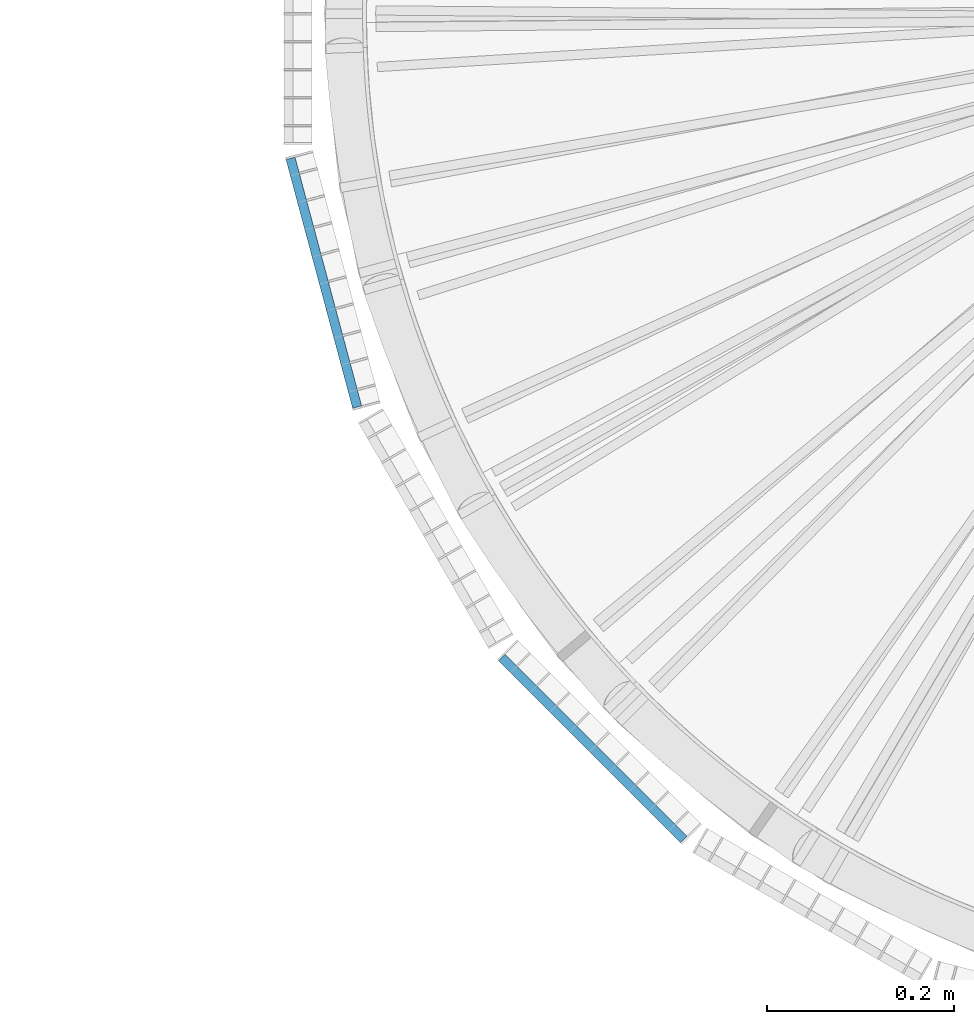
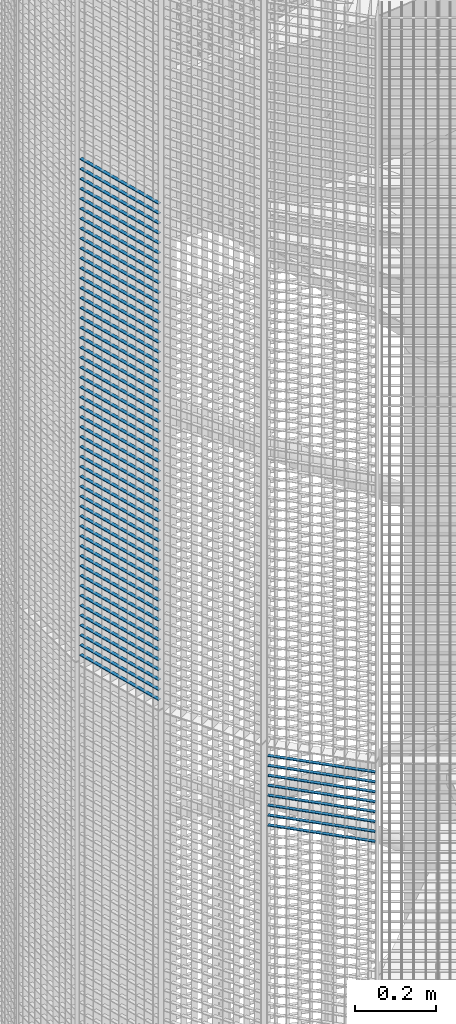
# One storey, part 122 of 1148: 59 beams, 2 elements without a shape of their own.
"""IFC2X3 building model written with IfcOpenShell, lengths in millimetres."""

from ifc_helpers import new_model, si_unit, frame, origin_with_axes, origin_2d_with_axis, place, context, subcontext, project, spatial, rectangle, extrude, material, type_object, element, aggregate, save


model = new_model("IFC2X3")

# Units and contexts
model_context = context("Model", 3, precision=1e-05, world=origin_with_axes())
body_context = subcontext(model_context, "Body", "Model", "MODEL_VIEW")
ifc_project = project(units=[si_unit("LENGTHUNIT", "METRE", prefix="MILLI"), si_unit("AREAUNIT", "SQUARE_METRE"), si_unit("VOLUMEUNIT", "CUBIC_METRE"), si_unit("MASSUNIT", "GRAM", prefix="KILO"), si_unit("TIMEUNIT", "SECOND"), si_unit("PLANEANGLEUNIT", "RADIAN"), si_unit("SOLIDANGLEUNIT", "STERADIAN"), si_unit("THERMODYNAMICTEMPERATUREUNIT", "DEGREE_CELSIUS"), si_unit("LUMINOUSINTENSITYUNIT", "LUMEN")], contexts=[model_context])

# Site, building, storey
site_placement = place(None, origin_with_axes())
site = spatial("IfcSite", under=ifc_project, at=site_placement, Name="Undefined", CompositionType="ELEMENT")
building_placement = place(site_placement, origin_with_axes())
building = spatial("IfcBuilding", under=site, at=building_placement, Name="Undefined", CompositionType="ELEMENT")
storey_placement = place(building_placement, origin_with_axes())
storey = spatial("IfcBuildingStorey", under=building, at=storey_placement, Name="Undefined", CompositionType="ELEMENT", Elevation=0.0)

# Assembly, beams
assembly_1_placement = place(storey_placement, origin_with_axes())
assembly_1 = element("IfcElementAssembly", 1, at=assembly_1_placement, inside=storey, Name="BORDURE", AssemblyPlace="NOTDEFINED", PredefinedType="NOTDEFINED")
ifc_material = material(Name="STEEL/S235JR")
beam_type = type_object("IfcBeamType", Name="PL2*10", PredefinedType="NOTDEFINED")
beam_1_placement = place(assembly_1_placement, frame((-1111.25508286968, -154.895926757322, 7530.0), z_axis=(-0.965925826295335, -0.258819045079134, 0.0), x_axis=(0.258819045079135, -0.965925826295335, 0.0)))
beam_1 = element("IfcBeam", 2, at=beam_1_placement, type_object=beam_type, material=ifc_material, Name="ENTRETOISE", context=body_context, shape_type="SweptSolid", body=[
    extrude(rectangle(XDim=2.0, YDim=10.0, at=origin_2d_with_axis()), frame((275.999999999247, 9.09494701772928e-13, 1.53210777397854e-14), z_axis=(-1.0, 0.0, 0.0), x_axis=(0.0, -1.0, 0.0)), (0.0, 0.0, 1.0), 276.0),
])
beam_2_placement = place(assembly_1_placement, frame((-1111.25508286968, -154.895926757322, 7500.0), z_axis=(-0.965925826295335, -0.258819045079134, 0.0), x_axis=(0.258819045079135, -0.965925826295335, 0.0)))
beam_2 = element("IfcBeam", 3, at=beam_2_placement, type_object=beam_type, material=ifc_material, Name="ENTRETOISE", context=body_context, shape_type="SweptSolid", body=[
    extrude(rectangle(XDim=2.0, YDim=10.0, at=origin_2d_with_axis()), frame((275.999999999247, 9.09494701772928e-13, 1.53210777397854e-14), z_axis=(-1.0, 0.0, 0.0), x_axis=(0.0, -1.0, 0.0)), (0.0, 0.0, 1.0), 276.0),
])
beam_3_placement = place(assembly_1_placement, frame((-1111.25508286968, -154.895926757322, 7470.0), z_axis=(-0.965925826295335, -0.258819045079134, 0.0), x_axis=(0.258819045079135, -0.965925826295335, 0.0)))
beam_3 = element("IfcBeam", 4, at=beam_3_placement, type_object=beam_type, material=ifc_material, Name="ENTRETOISE", context=body_context, shape_type="SweptSolid", body=[
    extrude(rectangle(XDim=2.0, YDim=10.0, at=origin_2d_with_axis()), frame((275.999999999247, 9.09494701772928e-13, 1.53210777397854e-14), z_axis=(-1.0, 0.0, 0.0), x_axis=(0.0, -1.0, 0.0)), (0.0, 0.0, 1.0), 276.0),
])
beam_4_placement = place(assembly_1_placement, frame((-1111.25508286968, -154.895926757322, 7440.0), z_axis=(-0.965925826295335, -0.258819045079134, 0.0), x_axis=(0.258819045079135, -0.965925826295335, 0.0)))
beam_4 = element("IfcBeam", 5, at=beam_4_placement, type_object=beam_type, material=ifc_material, Name="ENTRETOISE", context=body_context, shape_type="SweptSolid", body=[
    extrude(rectangle(XDim=2.0, YDim=10.0, at=origin_2d_with_axis()), frame((275.999999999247, 9.09494701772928e-13, 1.53210777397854e-14), z_axis=(-1.0, 0.0, 0.0), x_axis=(0.0, -1.0, 0.0)), (0.0, 0.0, 1.0), 276.0),
])
beam_5_placement = place(assembly_1_placement, frame((-1111.25508286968, -154.895926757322, 7410.0), z_axis=(-0.965925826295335, -0.258819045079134, 0.0), x_axis=(0.258819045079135, -0.965925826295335, 0.0)))
beam_5 = element("IfcBeam", 6, at=beam_5_placement, type_object=beam_type, material=ifc_material, Name="ENTRETOISE", context=body_context, shape_type="SweptSolid", body=[
    extrude(rectangle(XDim=2.0, YDim=10.0, at=origin_2d_with_axis()), frame((275.999999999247, 9.09494701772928e-13, 1.53210777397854e-14), z_axis=(-1.0, 0.0, 0.0), x_axis=(0.0, -1.0, 0.0)), (0.0, 0.0, 1.0), 276.0),
])
beam_6_placement = place(assembly_1_placement, frame((-1111.25508286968, -154.895926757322, 7380.0), z_axis=(-0.965925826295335, -0.258819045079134, 0.0), x_axis=(0.258819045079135, -0.965925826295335, 0.0)))
beam_6 = element("IfcBeam", 7, at=beam_6_placement, type_object=beam_type, material=ifc_material, Name="ENTRETOISE", context=body_context, shape_type="SweptSolid", body=[
    extrude(rectangle(XDim=2.0, YDim=10.0, at=origin_2d_with_axis()), frame((275.999999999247, 9.09494701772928e-13, 1.53210777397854e-14), z_axis=(-1.0, 0.0, 0.0), x_axis=(0.0, -1.0, 0.0)), (0.0, 0.0, 1.0), 276.0),
])
beam_7_placement = place(assembly_1_placement, frame((-1111.25508286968, -154.895926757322, 7350.0), z_axis=(-0.965925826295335, -0.258819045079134, 0.0), x_axis=(0.258819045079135, -0.965925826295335, 0.0)))
beam_7 = element("IfcBeam", 8, at=beam_7_placement, type_object=beam_type, material=ifc_material, Name="ENTRETOISE", context=body_context, shape_type="SweptSolid", body=[
    extrude(rectangle(XDim=2.0, YDim=10.0, at=origin_2d_with_axis()), frame((275.999999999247, 9.09494701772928e-13, 1.53210777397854e-14), z_axis=(-1.0, 0.0, 0.0), x_axis=(0.0, -1.0, 0.0)), (0.0, 0.0, 1.0), 276.0),
])
beam_8_placement = place(assembly_1_placement, frame((-1111.25508286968, -154.895926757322, 7320.0), z_axis=(-0.965925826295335, -0.258819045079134, 0.0), x_axis=(0.258819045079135, -0.965925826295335, 0.0)))
beam_8 = element("IfcBeam", 9, at=beam_8_placement, type_object=beam_type, material=ifc_material, Name="ENTRETOISE", context=body_context, shape_type="SweptSolid", body=[
    extrude(rectangle(XDim=2.0, YDim=10.0, at=origin_2d_with_axis()), frame((275.999999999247, 9.09494701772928e-13, 1.53210777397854e-14), z_axis=(-1.0, 0.0, 0.0), x_axis=(0.0, -1.0, 0.0)), (0.0, 0.0, 1.0), 276.0),
])
beam_9_placement = place(assembly_1_placement, frame((-1111.25508286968, -154.895926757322, 7290.0), z_axis=(-0.965925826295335, -0.258819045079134, 0.0), x_axis=(0.258819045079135, -0.965925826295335, 0.0)))
beam_9 = element("IfcBeam", 10, at=beam_9_placement, type_object=beam_type, material=ifc_material, Name="ENTRETOISE", context=body_context, shape_type="SweptSolid", body=[
    extrude(rectangle(XDim=2.0, YDim=10.0, at=origin_2d_with_axis()), frame((275.999999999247, 9.09494701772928e-13, 1.53210777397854e-14), z_axis=(-1.0, 0.0, 0.0), x_axis=(0.0, -1.0, 0.0)), (0.0, 0.0, 1.0), 276.0),
])
beam_10_placement = place(assembly_1_placement, frame((-1111.25508286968, -154.895926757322, 7260.0), z_axis=(-0.965925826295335, -0.258819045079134, 0.0), x_axis=(0.258819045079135, -0.965925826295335, 0.0)))
beam_10 = element("IfcBeam", 11, at=beam_10_placement, type_object=beam_type, material=ifc_material, Name="ENTRETOISE", context=body_context, shape_type="SweptSolid", body=[
    extrude(rectangle(XDim=2.0, YDim=10.0, at=origin_2d_with_axis()), frame((275.999999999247, 9.09494701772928e-13, 1.53210777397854e-14), z_axis=(-1.0, 0.0, 0.0), x_axis=(0.0, -1.0, 0.0)), (0.0, 0.0, 1.0), 276.0),
])
beam_11_placement = place(assembly_1_placement, frame((-1111.25508286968, -154.895926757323, 7230.0), z_axis=(-0.965925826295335, -0.258819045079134, 0.0), x_axis=(0.258819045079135, -0.965925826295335, 0.0)))
beam_11 = element("IfcBeam", 12, at=beam_11_placement, type_object=beam_type, material=ifc_material, Name="ENTRETOISE", context=body_context, shape_type="SweptSolid", body=[
    extrude(rectangle(XDim=2.0, YDim=10.0, at=origin_2d_with_axis()), frame((275.999999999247, 9.09494701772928e-13, 1.53210777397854e-14), z_axis=(-1.0, 0.0, 0.0), x_axis=(0.0, -1.0, 0.0)), (0.0, 0.0, 1.0), 276.0),
])
beam_12_placement = place(assembly_1_placement, frame((-1111.25508286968, -154.895926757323, 7200.0), z_axis=(-0.965925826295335, -0.258819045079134, 0.0), x_axis=(0.258819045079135, -0.965925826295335, 0.0)))
beam_12 = element("IfcBeam", 13, at=beam_12_placement, type_object=beam_type, material=ifc_material, Name="ENTRETOISE", context=body_context, shape_type="SweptSolid", body=[
    extrude(rectangle(XDim=2.0, YDim=10.0, at=origin_2d_with_axis()), frame((275.999999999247, 9.09494701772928e-13, 1.53210777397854e-14), z_axis=(-1.0, 0.0, 0.0), x_axis=(0.0, -1.0, 0.0)), (0.0, 0.0, 1.0), 276.0),
])
beam_13_placement = place(assembly_1_placement, frame((-1111.25508286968, -154.895926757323, 7170.0), z_axis=(-0.965925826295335, -0.258819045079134, 0.0), x_axis=(0.258819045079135, -0.965925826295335, 0.0)))
beam_13 = element("IfcBeam", 14, at=beam_13_placement, type_object=beam_type, material=ifc_material, Name="ENTRETOISE", context=body_context, shape_type="SweptSolid", body=[
    extrude(rectangle(XDim=2.0, YDim=10.0, at=origin_2d_with_axis()), frame((275.999999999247, 9.09494701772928e-13, 1.53210777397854e-14), z_axis=(-1.0, 0.0, 0.0), x_axis=(0.0, -1.0, 0.0)), (0.0, 0.0, 1.0), 276.0),
])
beam_14_placement = place(assembly_1_placement, frame((-1111.25508286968, -154.895926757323, 7140.0), z_axis=(-0.965925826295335, -0.258819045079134, 0.0), x_axis=(0.258819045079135, -0.965925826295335, 0.0)))
beam_14 = element("IfcBeam", 15, at=beam_14_placement, type_object=beam_type, material=ifc_material, Name="ENTRETOISE", context=body_context, shape_type="SweptSolid", body=[
    extrude(rectangle(XDim=2.0, YDim=10.0, at=origin_2d_with_axis()), frame((275.999999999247, 9.09494701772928e-13, 1.53210777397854e-14), z_axis=(-1.0, 0.0, 0.0), x_axis=(0.0, -1.0, 0.0)), (0.0, 0.0, 1.0), 276.0),
])
beam_15_placement = place(assembly_1_placement, frame((-1111.25508286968, -154.895926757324, 6720.0), z_axis=(-0.965925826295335, -0.258819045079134, 0.0), x_axis=(0.258819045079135, -0.965925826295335, 0.0)))
beam_15 = element("IfcBeam", 16, at=beam_15_placement, type_object=beam_type, material=ifc_material, Name="ENTRETOISE", context=body_context, shape_type="SweptSolid", body=[
    extrude(rectangle(XDim=2.0, YDim=10.0, at=origin_2d_with_axis()), frame((275.999999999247, 9.09494701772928e-13, 1.53210777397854e-14), z_axis=(-1.0, 0.0, 0.0), x_axis=(0.0, -1.0, 0.0)), (0.0, 0.0, 1.0), 276.0),
])
beam_16_placement = place(assembly_1_placement, frame((-1111.25508286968, -154.895926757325, 6690.0), z_axis=(-0.965925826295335, -0.258819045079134, 0.0), x_axis=(0.258819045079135, -0.965925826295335, 0.0)))
beam_16 = element("IfcBeam", 17, at=beam_16_placement, type_object=beam_type, material=ifc_material, Name="ENTRETOISE", context=body_context, shape_type="SweptSolid", body=[
    extrude(rectangle(XDim=2.0, YDim=10.0, at=origin_2d_with_axis()), frame((275.999999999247, 9.09494701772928e-13, 1.53210777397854e-14), z_axis=(-1.0, 0.0, 0.0), x_axis=(0.0, -1.0, 0.0)), (0.0, 0.0, 1.0), 276.0),
])
beam_17_placement = place(assembly_1_placement, frame((-1111.25508286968, -154.895926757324, 6750.0), z_axis=(-0.965925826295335, -0.258819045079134, 0.0), x_axis=(0.258819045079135, -0.965925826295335, 0.0)))
beam_17 = element("IfcBeam", 18, at=beam_17_placement, type_object=beam_type, material=ifc_material, Name="ENTRETOISE", context=body_context, shape_type="SweptSolid", body=[
    extrude(rectangle(XDim=2.0, YDim=10.0, at=origin_2d_with_axis()), frame((275.999999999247, 9.09494701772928e-13, 1.53210777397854e-14), z_axis=(-1.0, 0.0, 0.0), x_axis=(0.0, -1.0, 0.0)), (0.0, 0.0, 1.0), 276.0),
])
beam_18_placement = place(assembly_1_placement, frame((-1111.25508286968, -154.895926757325, 6660.0), z_axis=(-0.965925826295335, -0.258819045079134, 0.0), x_axis=(0.258819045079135, -0.965925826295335, 0.0)))
beam_18 = element("IfcBeam", 19, at=beam_18_placement, type_object=beam_type, material=ifc_material, Name="ENTRETOISE", context=body_context, shape_type="SweptSolid", body=[
    extrude(rectangle(XDim=2.0, YDim=10.0, at=origin_2d_with_axis()), frame((275.999999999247, 9.09494701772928e-13, 1.53210777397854e-14), z_axis=(-1.0, 0.0, 0.0), x_axis=(0.0, -1.0, 0.0)), (0.0, 0.0, 1.0), 276.0),
])
beam_19_placement = place(assembly_1_placement, frame((-1111.25508286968, -154.895926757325, 6630.0), z_axis=(-0.965925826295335, -0.258819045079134, 0.0), x_axis=(0.258819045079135, -0.965925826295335, 0.0)))
beam_19 = element("IfcBeam", 20, at=beam_19_placement, type_object=beam_type, material=ifc_material, Name="ENTRETOISE", context=body_context, shape_type="SweptSolid", body=[
    extrude(rectangle(XDim=2.0, YDim=10.0, at=origin_2d_with_axis()), frame((275.999999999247, 9.09494701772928e-13, 1.53210777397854e-14), z_axis=(-1.0, 0.0, 0.0), x_axis=(0.0, -1.0, 0.0)), (0.0, 0.0, 1.0), 276.0),
])
beam_20_placement = place(assembly_1_placement, frame((-1111.25508286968, -154.895926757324, 6780.0), z_axis=(-0.965925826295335, -0.258819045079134, 0.0), x_axis=(0.258819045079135, -0.965925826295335, 0.0)))
beam_20 = element("IfcBeam", 21, at=beam_20_placement, type_object=beam_type, material=ifc_material, Name="ENTRETOISE", context=body_context, shape_type="SweptSolid", body=[
    extrude(rectangle(XDim=2.0, YDim=10.0, at=origin_2d_with_axis()), frame((275.999999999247, 9.09494701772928e-13, 1.53210777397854e-14), z_axis=(-1.0, 0.0, 0.0), x_axis=(0.0, -1.0, 0.0)), (0.0, 0.0, 1.0), 276.0),
])
beam_21_placement = place(assembly_1_placement, frame((-1111.25508286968, -154.895926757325, 6600.0), z_axis=(-0.965925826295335, -0.258819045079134, 0.0), x_axis=(0.258819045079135, -0.965925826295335, 0.0)))
beam_21 = element("IfcBeam", 22, at=beam_21_placement, type_object=beam_type, material=ifc_material, Name="ENTRETOISE", context=body_context, shape_type="SweptSolid", body=[
    extrude(rectangle(XDim=2.0, YDim=10.0, at=origin_2d_with_axis()), frame((275.999999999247, 9.09494701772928e-13, 1.53210777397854e-14), z_axis=(-1.0, 0.0, 0.0), x_axis=(0.0, -1.0, 0.0)), (0.0, 0.0, 1.0), 276.0),
])
beam_22_placement = place(assembly_1_placement, frame((-1111.25508286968, -154.895926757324, 6810.0), z_axis=(-0.965925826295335, -0.258819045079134, 0.0), x_axis=(0.258819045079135, -0.965925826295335, 0.0)))
beam_22 = element("IfcBeam", 23, at=beam_22_placement, type_object=beam_type, material=ifc_material, Name="ENTRETOISE", context=body_context, shape_type="SweptSolid", body=[
    extrude(rectangle(XDim=2.0, YDim=10.0, at=origin_2d_with_axis()), frame((275.999999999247, 9.09494701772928e-13, 1.53210777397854e-14), z_axis=(-1.0, 0.0, 0.0), x_axis=(0.0, -1.0, 0.0)), (0.0, 0.0, 1.0), 276.0),
])
beam_23_placement = place(assembly_1_placement, frame((-1111.25508286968, -154.895926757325, 6570.0), z_axis=(-0.965925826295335, -0.258819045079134, 0.0), x_axis=(0.258819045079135, -0.965925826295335, 0.0)))
beam_23 = element("IfcBeam", 24, at=beam_23_placement, type_object=beam_type, material=ifc_material, Name="ENTRETOISE", context=body_context, shape_type="SweptSolid", body=[
    extrude(rectangle(XDim=2.0, YDim=10.0, at=origin_2d_with_axis()), frame((275.999999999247, 9.09494701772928e-13, 1.53210777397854e-14), z_axis=(-1.0, 0.0, 0.0), x_axis=(0.0, -1.0, 0.0)), (0.0, 0.0, 1.0), 276.0),
])
beam_24_placement = place(assembly_1_placement, frame((-1111.25508286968, -154.895926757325, 6540.0), z_axis=(-0.965925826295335, -0.258819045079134, 0.0), x_axis=(0.258819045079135, -0.965925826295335, 0.0)))
beam_24 = element("IfcBeam", 25, at=beam_24_placement, type_object=beam_type, material=ifc_material, Name="ENTRETOISE", context=body_context, shape_type="SweptSolid", body=[
    extrude(rectangle(XDim=2.0, YDim=10.0, at=origin_2d_with_axis()), frame((275.999999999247, 9.09494701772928e-13, 1.53210777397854e-14), z_axis=(-1.0, 0.0, 0.0), x_axis=(0.0, -1.0, 0.0)), (0.0, 0.0, 1.0), 276.0),
])
beam_25_placement = place(assembly_1_placement, frame((-1111.25508286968, -154.895926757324, 6840.0), z_axis=(-0.965925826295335, -0.258819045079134, 0.0), x_axis=(0.258819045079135, -0.965925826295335, 0.0)))
beam_25 = element("IfcBeam", 26, at=beam_25_placement, type_object=beam_type, material=ifc_material, Name="ENTRETOISE", context=body_context, shape_type="SweptSolid", body=[
    extrude(rectangle(XDim=2.0, YDim=10.0, at=origin_2d_with_axis()), frame((275.999999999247, 9.09494701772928e-13, 1.53210777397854e-14), z_axis=(-1.0, 0.0, 0.0), x_axis=(0.0, -1.0, 0.0)), (0.0, 0.0, 1.0), 276.0),
])
beam_26_placement = place(assembly_1_placement, frame((-1111.25508286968, -154.895926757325, 6510.0), z_axis=(-0.965925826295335, -0.258819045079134, 0.0), x_axis=(0.258819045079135, -0.965925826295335, 0.0)))
beam_26 = element("IfcBeam", 27, at=beam_26_placement, type_object=beam_type, material=ifc_material, Name="ENTRETOISE", context=body_context, shape_type="SweptSolid", body=[
    extrude(rectangle(XDim=2.0, YDim=10.0, at=origin_2d_with_axis()), frame((275.999999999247, 9.09494701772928e-13, 1.53210777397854e-14), z_axis=(-1.0, 0.0, 0.0), x_axis=(0.0, -1.0, 0.0)), (0.0, 0.0, 1.0), 276.0),
])
beam_27_placement = place(assembly_1_placement, frame((-1111.25508286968, -154.895926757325, 6480.0), z_axis=(-0.965925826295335, -0.258819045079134, 0.0), x_axis=(0.258819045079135, -0.965925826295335, 0.0)))
beam_27 = element("IfcBeam", 28, at=beam_27_placement, type_object=beam_type, material=ifc_material, Name="ENTRETOISE", context=body_context, shape_type="SweptSolid", body=[
    extrude(rectangle(XDim=2.0, YDim=10.0, at=origin_2d_with_axis()), frame((275.999999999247, 9.09494701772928e-13, 1.53210777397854e-14), z_axis=(-1.0, 0.0, 0.0), x_axis=(0.0, -1.0, 0.0)), (0.0, 0.0, 1.0), 276.0),
])
beam_28_placement = place(assembly_1_placement, frame((-1111.25508286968, -154.895926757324, 6870.0), z_axis=(-0.965925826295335, -0.258819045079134, 0.0), x_axis=(0.258819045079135, -0.965925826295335, 0.0)))
beam_28 = element("IfcBeam", 29, at=beam_28_placement, type_object=beam_type, material=ifc_material, Name="ENTRETOISE", context=body_context, shape_type="SweptSolid", body=[
    extrude(rectangle(XDim=2.0, YDim=10.0, at=origin_2d_with_axis()), frame((275.999999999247, 9.09494701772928e-13, 1.53210777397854e-14), z_axis=(-1.0, 0.0, 0.0), x_axis=(0.0, -1.0, 0.0)), (0.0, 0.0, 1.0), 276.0),
])
beam_29_placement = place(assembly_1_placement, frame((-1111.25508286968, -154.895926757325, 6450.0), z_axis=(-0.965925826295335, -0.258819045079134, 0.0), x_axis=(0.258819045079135, -0.965925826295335, 0.0)))
beam_29 = element("IfcBeam", 30, at=beam_29_placement, type_object=beam_type, material=ifc_material, Name="ENTRETOISE", context=body_context, shape_type="SweptSolid", body=[
    extrude(rectangle(XDim=2.0, YDim=10.0, at=origin_2d_with_axis()), frame((275.999999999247, 9.09494701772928e-13, 1.53210777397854e-14), z_axis=(-1.0, 0.0, 0.0), x_axis=(0.0, -1.0, 0.0)), (0.0, 0.0, 1.0), 276.0),
])
beam_30_placement = place(assembly_1_placement, frame((-1111.25508286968, -154.895926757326, 6420.0), z_axis=(-0.965925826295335, -0.258819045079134, 0.0), x_axis=(0.258819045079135, -0.965925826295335, 0.0)))
beam_30 = element("IfcBeam", 31, at=beam_30_placement, type_object=beam_type, material=ifc_material, Name="ENTRETOISE", context=body_context, shape_type="SweptSolid", body=[
    extrude(rectangle(XDim=2.0, YDim=10.0, at=origin_2d_with_axis()), frame((275.999999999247, 9.09494701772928e-13, 1.53210777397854e-14), z_axis=(-1.0, 0.0, 0.0), x_axis=(0.0, -1.0, 0.0)), (0.0, 0.0, 1.0), 276.0),
])
beam_31_placement = place(assembly_1_placement, frame((-1111.25508286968, -154.895926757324, 6900.0), z_axis=(-0.965925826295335, -0.258819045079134, 0.0), x_axis=(0.258819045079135, -0.965925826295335, 0.0)))
beam_31 = element("IfcBeam", 32, at=beam_31_placement, type_object=beam_type, material=ifc_material, Name="ENTRETOISE", context=body_context, shape_type="SweptSolid", body=[
    extrude(rectangle(XDim=2.0, YDim=10.0, at=origin_2d_with_axis()), frame((275.999999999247, 9.09494701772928e-13, 1.53210777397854e-14), z_axis=(-1.0, 0.0, 0.0), x_axis=(0.0, -1.0, 0.0)), (0.0, 0.0, 1.0), 276.0),
])
beam_32_placement = place(assembly_1_placement, frame((-1111.25508286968, -154.895926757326, 6390.0), z_axis=(-0.965925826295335, -0.258819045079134, 0.0), x_axis=(0.258819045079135, -0.965925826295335, 0.0)))
beam_32 = element("IfcBeam", 33, at=beam_32_placement, type_object=beam_type, material=ifc_material, Name="ENTRETOISE", context=body_context, shape_type="SweptSolid", body=[
    extrude(rectangle(XDim=2.0, YDim=10.0, at=origin_2d_with_axis()), frame((275.999999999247, 9.09494701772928e-13, 1.53210777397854e-14), z_axis=(-1.0, 0.0, 0.0), x_axis=(0.0, -1.0, 0.0)), (0.0, 0.0, 1.0), 276.0),
])
beam_33_placement = place(assembly_1_placement, frame((-1111.25508286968, -154.895926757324, 6930.0), z_axis=(-0.965925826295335, -0.258819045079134, 0.0), x_axis=(0.258819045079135, -0.965925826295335, 0.0)))
beam_33 = element("IfcBeam", 34, at=beam_33_placement, type_object=beam_type, material=ifc_material, Name="ENTRETOISE", context=body_context, shape_type="SweptSolid", body=[
    extrude(rectangle(XDim=2.0, YDim=10.0, at=origin_2d_with_axis()), frame((275.999999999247, 9.09494701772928e-13, 1.53210777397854e-14), z_axis=(-1.0, 0.0, 0.0), x_axis=(0.0, -1.0, 0.0)), (0.0, 0.0, 1.0), 276.0),
])
beam_34_placement = place(assembly_1_placement, frame((-1111.25508286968, -154.895926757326, 6360.0), z_axis=(-0.965925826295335, -0.258819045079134, 0.0), x_axis=(0.258819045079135, -0.965925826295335, 0.0)))
beam_34 = element("IfcBeam", 35, at=beam_34_placement, type_object=beam_type, material=ifc_material, Name="ENTRETOISE", context=body_context, shape_type="SweptSolid", body=[
    extrude(rectangle(XDim=2.0, YDim=10.0, at=origin_2d_with_axis()), frame((275.999999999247, 9.09494701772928e-13, 1.53210777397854e-14), z_axis=(-1.0, 0.0, 0.0), x_axis=(0.0, -1.0, 0.0)), (0.0, 0.0, 1.0), 276.0),
])
beam_35_placement = place(assembly_1_placement, frame((-1111.25508286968, -154.895926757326, 6330.0), z_axis=(-0.965925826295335, -0.258819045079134, 0.0), x_axis=(0.258819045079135, -0.965925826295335, 0.0)))
beam_35 = element("IfcBeam", 36, at=beam_35_placement, type_object=beam_type, material=ifc_material, Name="ENTRETOISE", context=body_context, shape_type="SweptSolid", body=[
    extrude(rectangle(XDim=2.0, YDim=10.0, at=origin_2d_with_axis()), frame((275.999999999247, 9.09494701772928e-13, 1.53210777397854e-14), z_axis=(-1.0, 0.0, 0.0), x_axis=(0.0, -1.0, 0.0)), (0.0, 0.0, 1.0), 276.0),
])
beam_36_placement = place(assembly_1_placement, frame((-1111.25508286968, -154.895926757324, 6960.0), z_axis=(-0.965925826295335, -0.258819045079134, 0.0), x_axis=(0.258819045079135, -0.965925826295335, 0.0)))
beam_36 = element("IfcBeam", 37, at=beam_36_placement, type_object=beam_type, material=ifc_material, Name="ENTRETOISE", context=body_context, shape_type="SweptSolid", body=[
    extrude(rectangle(XDim=2.0, YDim=10.0, at=origin_2d_with_axis()), frame((275.999999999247, 9.09494701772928e-13, 1.53210777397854e-14), z_axis=(-1.0, 0.0, 0.0), x_axis=(0.0, -1.0, 0.0)), (0.0, 0.0, 1.0), 276.0),
])
beam_37_placement = place(assembly_1_placement, frame((-1111.25508286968, -154.895926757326, 6300.0), z_axis=(-0.965925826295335, -0.258819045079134, 0.0), x_axis=(0.258819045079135, -0.965925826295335, 0.0)))
beam_37 = element("IfcBeam", 38, at=beam_37_placement, type_object=beam_type, material=ifc_material, Name="ENTRETOISE", context=body_context, shape_type="SweptSolid", body=[
    extrude(rectangle(XDim=2.0, YDim=10.0, at=origin_2d_with_axis()), frame((275.999999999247, 9.09494701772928e-13, 1.53210777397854e-14), z_axis=(-1.0, 0.0, 0.0), x_axis=(0.0, -1.0, 0.0)), (0.0, 0.0, 1.0), 276.0),
])
beam_38_placement = place(assembly_1_placement, frame((-1111.25508286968, -154.895926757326, 6270.0), z_axis=(-0.965925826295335, -0.258819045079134, 0.0), x_axis=(0.258819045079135, -0.965925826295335, 0.0)))
beam_38 = element("IfcBeam", 39, at=beam_38_placement, type_object=beam_type, material=ifc_material, Name="ENTRETOISE", context=body_context, shape_type="SweptSolid", body=[
    extrude(rectangle(XDim=2.0, YDim=10.0, at=origin_2d_with_axis()), frame((275.999999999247, 9.09494701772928e-13, 1.53210777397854e-14), z_axis=(-1.0, 0.0, 0.0), x_axis=(0.0, -1.0, 0.0)), (0.0, 0.0, 1.0), 276.0),
])
beam_39_placement = place(assembly_1_placement, frame((-1111.25508286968, -154.895926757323, 6990.0), z_axis=(-0.965925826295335, -0.258819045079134, 0.0), x_axis=(0.258819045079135, -0.965925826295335, 0.0)))
beam_39 = element("IfcBeam", 40, at=beam_39_placement, type_object=beam_type, material=ifc_material, Name="ENTRETOISE", context=body_context, shape_type="SweptSolid", body=[
    extrude(rectangle(XDim=2.0, YDim=10.0, at=origin_2d_with_axis()), frame((275.999999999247, 9.09494701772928e-13, 1.53210777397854e-14), z_axis=(-1.0, 0.0, 0.0), x_axis=(0.0, -1.0, 0.0)), (0.0, 0.0, 1.0), 276.0),
])
beam_40_placement = place(assembly_1_placement, frame((-1111.25508286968, -154.895926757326, 6240.0), z_axis=(-0.965925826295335, -0.258819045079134, 0.0), x_axis=(0.258819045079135, -0.965925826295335, 0.0)))
beam_40 = element("IfcBeam", 41, at=beam_40_placement, type_object=beam_type, material=ifc_material, Name="ENTRETOISE", context=body_context, shape_type="SweptSolid", body=[
    extrude(rectangle(XDim=2.0, YDim=10.0, at=origin_2d_with_axis()), frame((275.999999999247, 9.09494701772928e-13, 1.53210777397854e-14), z_axis=(-1.0, 0.0, 0.0), x_axis=(0.0, -1.0, 0.0)), (0.0, 0.0, 1.0), 276.0),
])
beam_41_placement = place(assembly_1_placement, frame((-1111.25508286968, -154.895926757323, 7020.0), z_axis=(-0.965925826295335, -0.258819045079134, 0.0), x_axis=(0.258819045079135, -0.965925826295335, 0.0)))
beam_41 = element("IfcBeam", 42, at=beam_41_placement, type_object=beam_type, material=ifc_material, Name="ENTRETOISE", context=body_context, shape_type="SweptSolid", body=[
    extrude(rectangle(XDim=2.0, YDim=10.0, at=origin_2d_with_axis()), frame((275.999999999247, 9.09494701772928e-13, 1.53210777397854e-14), z_axis=(-1.0, 0.0, 0.0), x_axis=(0.0, -1.0, 0.0)), (0.0, 0.0, 1.0), 276.0),
])
beam_42_placement = place(assembly_1_placement, frame((-1111.25508286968, -154.895926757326, 6210.0), z_axis=(-0.965925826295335, -0.258819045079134, 0.0), x_axis=(0.258819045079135, -0.965925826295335, 0.0)))
beam_42 = element("IfcBeam", 43, at=beam_42_placement, type_object=beam_type, material=ifc_material, Name="ENTRETOISE", context=body_context, shape_type="SweptSolid", body=[
    extrude(rectangle(XDim=2.0, YDim=10.0, at=origin_2d_with_axis()), frame((275.999999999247, 9.09494701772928e-13, 1.53210777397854e-14), z_axis=(-1.0, 0.0, 0.0), x_axis=(0.0, -1.0, 0.0)), (0.0, 0.0, 1.0), 276.0),
])
beam_43_placement = place(assembly_1_placement, frame((-1111.25508286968, -154.895926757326, 6180.0), z_axis=(-0.965925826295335, -0.258819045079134, 0.0), x_axis=(0.258819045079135, -0.965925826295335, 0.0)))
beam_43 = element("IfcBeam", 44, at=beam_43_placement, type_object=beam_type, material=ifc_material, Name="ENTRETOISE", context=body_context, shape_type="SweptSolid", body=[
    extrude(rectangle(XDim=2.0, YDim=10.0, at=origin_2d_with_axis()), frame((275.999999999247, 9.09494701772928e-13, 1.53210777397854e-14), z_axis=(-1.0, 0.0, 0.0), x_axis=(0.0, -1.0, 0.0)), (0.0, 0.0, 1.0), 276.0),
])
beam_44_placement = place(assembly_1_placement, frame((-1111.25508286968, -154.895926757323, 7050.0), z_axis=(-0.965925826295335, -0.258819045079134, 0.0), x_axis=(0.258819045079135, -0.965925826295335, 0.0)))
beam_44 = element("IfcBeam", 45, at=beam_44_placement, type_object=beam_type, material=ifc_material, Name="ENTRETOISE", context=body_context, shape_type="SweptSolid", body=[
    extrude(rectangle(XDim=2.0, YDim=10.0, at=origin_2d_with_axis()), frame((275.999999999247, 9.09494701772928e-13, 1.53210777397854e-14), z_axis=(-1.0, 0.0, 0.0), x_axis=(0.0, -1.0, 0.0)), (0.0, 0.0, 1.0), 276.0),
])
beam_45_placement = place(assembly_1_placement, frame((-1111.25508286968, -154.895926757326, 6150.0), z_axis=(-0.965925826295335, -0.258819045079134, 0.0), x_axis=(0.258819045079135, -0.965925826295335, 0.0)))
beam_45 = element("IfcBeam", 46, at=beam_45_placement, type_object=beam_type, material=ifc_material, Name="ENTRETOISE", context=body_context, shape_type="SweptSolid", body=[
    extrude(rectangle(XDim=2.0, YDim=10.0, at=origin_2d_with_axis()), frame((275.999999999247, 9.09494701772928e-13, 1.53210777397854e-14), z_axis=(-1.0, 0.0, 0.0), x_axis=(0.0, -1.0, 0.0)), (0.0, 0.0, 1.0), 276.0),
])
beam_46_placement = place(assembly_1_placement, frame((-1111.25508286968, -154.895926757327, 6120.0), z_axis=(-0.965925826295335, -0.258819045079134, 0.0), x_axis=(0.258819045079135, -0.965925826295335, 0.0)))
beam_46 = element("IfcBeam", 47, at=beam_46_placement, type_object=beam_type, material=ifc_material, Name="ENTRETOISE", context=body_context, shape_type="SweptSolid", body=[
    extrude(rectangle(XDim=2.0, YDim=10.0, at=origin_2d_with_axis()), frame((275.999999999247, 9.09494701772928e-13, 1.53210777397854e-14), z_axis=(-1.0, 0.0, 0.0), x_axis=(0.0, -1.0, 0.0)), (0.0, 0.0, 1.0), 276.0),
])
beam_47_placement = place(assembly_1_placement, frame((-1111.25508286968, -154.895926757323, 7080.0), z_axis=(-0.965925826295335, -0.258819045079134, 0.0), x_axis=(0.258819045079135, -0.965925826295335, 0.0)))
beam_47 = element("IfcBeam", 48, at=beam_47_placement, type_object=beam_type, material=ifc_material, Name="ENTRETOISE", context=body_context, shape_type="SweptSolid", body=[
    extrude(rectangle(XDim=2.0, YDim=10.0, at=origin_2d_with_axis()), frame((275.999999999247, 9.09494701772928e-13, 1.53210777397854e-14), z_axis=(-1.0, 0.0, 0.0), x_axis=(0.0, -1.0, 0.0)), (0.0, 0.0, 1.0), 276.0),
])
beam_48_placement = place(assembly_1_placement, frame((-1111.25508286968, -154.895926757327, 6090.0), z_axis=(-0.965925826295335, -0.258819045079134, 0.0), x_axis=(0.258819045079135, -0.965925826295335, 0.0)))
beam_48 = element("IfcBeam", 49, at=beam_48_placement, type_object=beam_type, material=ifc_material, Name="ENTRETOISE", context=body_context, shape_type="SweptSolid", body=[
    extrude(rectangle(XDim=2.0, YDim=10.0, at=origin_2d_with_axis()), frame((275.999999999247, 9.09494701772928e-13, 1.53210777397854e-14), z_axis=(-1.0, 0.0, 0.0), x_axis=(0.0, -1.0, 0.0)), (0.0, 0.0, 1.0), 276.0),
])
beam_49_placement = place(assembly_1_placement, frame((-1111.25508286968, -154.895926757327, 6060.0), z_axis=(-0.965925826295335, -0.258819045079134, 0.0), x_axis=(0.258819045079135, -0.965925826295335, 0.0)))
beam_49 = element("IfcBeam", 50, at=beam_49_placement, type_object=beam_type, material=ifc_material, Name="ENTRETOISE", context=body_context, shape_type="SweptSolid", body=[
    extrude(rectangle(XDim=2.0, YDim=10.0, at=origin_2d_with_axis()), frame((275.999999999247, 9.09494701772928e-13, 1.53210777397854e-14), z_axis=(-1.0, 0.0, 0.0), x_axis=(0.0, -1.0, 0.0)), (0.0, 0.0, 1.0), 276.0),
])
beam_50_placement = place(assembly_1_placement, frame((-1111.25508286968, -154.895926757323, 7110.0), z_axis=(-0.965925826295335, -0.258819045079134, 0.0), x_axis=(0.258819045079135, -0.965925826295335, 0.0)))
beam_50 = element("IfcBeam", 51, at=beam_50_placement, type_object=beam_type, material=ifc_material, Name="ENTRETOISE", context=body_context, shape_type="SweptSolid", body=[
    extrude(rectangle(XDim=2.0, YDim=10.0, at=origin_2d_with_axis()), frame((275.999999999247, 9.09494701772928e-13, 1.53210777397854e-14), z_axis=(-1.0, 0.0, 0.0), x_axis=(0.0, -1.0, 0.0)), (0.0, 0.0, 1.0), 276.0),
])
beam_51_placement = place(assembly_1_placement, frame((-1111.25508286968, -154.895926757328, 6030.0), z_axis=(-0.965925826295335, -0.258819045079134, 0.0), x_axis=(0.258819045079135, -0.965925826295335, 0.0)))
beam_51 = element("IfcBeam", 52, at=beam_51_placement, type_object=beam_type, material=ifc_material, Name="ENTRETOISE", context=body_context, shape_type="SweptSolid", body=[
    extrude(rectangle(XDim=2.0, YDim=10.0, at=origin_2d_with_axis()), frame((275.999999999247, 9.09494701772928e-13, 1.53210777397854e-14), z_axis=(-1.0, 0.0, 0.0), x_axis=(0.0, -1.0, 0.0)), (0.0, 0.0, 1.0), 276.0),
])
aggregate(assembly_1, [beam_1, beam_2, beam_3, beam_4, beam_5, beam_6, beam_7, beam_8, beam_9, beam_10, beam_11, beam_12, beam_13, beam_14, beam_15, beam_16, beam_17, beam_18, beam_19, beam_20, beam_21, beam_22, beam_23, beam_24, beam_25, beam_26, beam_27, beam_28, beam_29, beam_30, beam_31, beam_32, beam_33, beam_34, beam_35, beam_36, beam_37, beam_38, beam_39, beam_40, beam_41, beam_42, beam_43, beam_44, beam_45, beam_46, beam_47, beam_48, beam_49, beam_50, beam_51])

assembly_2_placement = place(storey_placement, origin_with_axes())
assembly_2 = element("IfcElementAssembly", 53, at=assembly_2_placement, inside=storey, Name="BORDURE", AssemblyPlace="NOTDEFINED", PredefinedType="NOTDEFINED")
beam_52_placement = place(assembly_2_placement, frame((-884.927168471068, -689.771348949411, 5970.0), z_axis=(-0.70710678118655, -0.707106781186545, 0.0), x_axis=(0.707106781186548, -0.707106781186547, 0.0)))
beam_52 = element("IfcBeam", 54, at=beam_52_placement, type_object=beam_type, material=ifc_material, Name="ENTRETOISE", context=body_context, shape_type="SweptSolid", body=[
    extrude(rectangle(XDim=2.0, YDim=10.0, at=origin_2d_with_axis()), frame((275.999999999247, 9.09494701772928e-13, 1.53210777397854e-14), z_axis=(-1.0, 0.0, 0.0), x_axis=(0.0, -1.0, 0.0)), (0.0, 0.0, 1.0), 276.0),
])
beam_53_placement = place(assembly_2_placement, frame((-884.927168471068, -689.771348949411, 5940.0), z_axis=(-0.70710678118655, -0.707106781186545, 0.0), x_axis=(0.707106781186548, -0.707106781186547, 0.0)))
beam_53 = element("IfcBeam", 55, at=beam_53_placement, type_object=beam_type, material=ifc_material, Name="ENTRETOISE", context=body_context, shape_type="SweptSolid", body=[
    extrude(rectangle(XDim=2.0, YDim=10.0, at=origin_2d_with_axis()), frame((275.999999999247, 9.09494701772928e-13, 1.53210777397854e-14), z_axis=(-1.0, 0.0, 0.0), x_axis=(0.0, -1.0, 0.0)), (0.0, 0.0, 1.0), 276.0),
])
beam_54_placement = place(assembly_2_placement, frame((-884.927168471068, -689.771348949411, 5910.0), z_axis=(-0.70710678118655, -0.707106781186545, 0.0), x_axis=(0.707106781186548, -0.707106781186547, 0.0)))
beam_54 = element("IfcBeam", 56, at=beam_54_placement, type_object=beam_type, material=ifc_material, Name="ENTRETOISE", context=body_context, shape_type="SweptSolid", body=[
    extrude(rectangle(XDim=2.0, YDim=10.0, at=origin_2d_with_axis()), frame((275.999999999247, 9.09494701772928e-13, 1.53210777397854e-14), z_axis=(-1.0, 0.0, 0.0), x_axis=(0.0, -1.0, 0.0)), (0.0, 0.0, 1.0), 276.0),
])
beam_55_placement = place(assembly_2_placement, frame((-884.927168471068, -689.771348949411, 5880.0), z_axis=(-0.70710678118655, -0.707106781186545, 0.0), x_axis=(0.707106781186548, -0.707106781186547, 0.0)))
beam_55 = element("IfcBeam", 57, at=beam_55_placement, type_object=beam_type, material=ifc_material, Name="ENTRETOISE", context=body_context, shape_type="SweptSolid", body=[
    extrude(rectangle(XDim=2.0, YDim=10.0, at=origin_2d_with_axis()), frame((275.999999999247, 9.09494701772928e-13, 1.53210777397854e-14), z_axis=(-1.0, 0.0, 0.0), x_axis=(0.0, -1.0, 0.0)), (0.0, 0.0, 1.0), 276.0),
])
beam_56_placement = place(assembly_2_placement, frame((-884.927168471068, -689.771348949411, 5850.0), z_axis=(-0.70710678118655, -0.707106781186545, 0.0), x_axis=(0.707106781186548, -0.707106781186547, 0.0)))
beam_56 = element("IfcBeam", 58, at=beam_56_placement, type_object=beam_type, material=ifc_material, Name="ENTRETOISE", context=body_context, shape_type="SweptSolid", body=[
    extrude(rectangle(XDim=2.0, YDim=10.0, at=origin_2d_with_axis()), frame((275.999999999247, 9.09494701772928e-13, 1.53210777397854e-14), z_axis=(-1.0, 0.0, 0.0), x_axis=(0.0, -1.0, 0.0)), (0.0, 0.0, 1.0), 276.0),
])
beam_57_placement = place(assembly_2_placement, frame((-884.927168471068, -689.771348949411, 5820.0), z_axis=(-0.70710678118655, -0.707106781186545, 0.0), x_axis=(0.707106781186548, -0.707106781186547, 0.0)))
beam_57 = element("IfcBeam", 59, at=beam_57_placement, type_object=beam_type, material=ifc_material, Name="ENTRETOISE", context=body_context, shape_type="SweptSolid", body=[
    extrude(rectangle(XDim=2.0, YDim=10.0, at=origin_2d_with_axis()), frame((275.999999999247, 9.09494701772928e-13, 1.53210777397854e-14), z_axis=(-1.0, 0.0, 0.0), x_axis=(0.0, -1.0, 0.0)), (0.0, 0.0, 1.0), 276.0),
])
beam_58_placement = place(assembly_2_placement, frame((-884.927168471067, -689.771348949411, 5790.0), z_axis=(-0.70710678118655, -0.707106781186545, 0.0), x_axis=(0.707106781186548, -0.707106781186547, 0.0)))
beam_58 = element("IfcBeam", 60, at=beam_58_placement, type_object=beam_type, material=ifc_material, Name="ENTRETOISE", context=body_context, shape_type="SweptSolid", body=[
    extrude(rectangle(XDim=2.0, YDim=10.0, at=origin_2d_with_axis()), frame((275.999999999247, 9.09494701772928e-13, 1.53210777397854e-14), z_axis=(-1.0, 0.0, 0.0), x_axis=(0.0, -1.0, 0.0)), (0.0, 0.0, 1.0), 276.0),
])
beam_59_placement = place(assembly_2_placement, frame((-884.927168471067, -689.771348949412, 5760.0), z_axis=(-0.70710678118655, -0.707106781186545, 0.0), x_axis=(0.707106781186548, -0.707106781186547, 0.0)))
beam_59 = element("IfcBeam", 61, at=beam_59_placement, type_object=beam_type, material=ifc_material, Name="ENTRETOISE", context=body_context, shape_type="SweptSolid", body=[
    extrude(rectangle(XDim=2.0, YDim=10.0, at=origin_2d_with_axis()), frame((275.999999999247, 9.09494701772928e-13, 1.53210777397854e-14), z_axis=(-1.0, 0.0, 0.0), x_axis=(0.0, -1.0, 0.0)), (0.0, 0.0, 1.0), 276.0),
])
aggregate(assembly_2, [beam_52, beam_53, beam_54, beam_55, beam_56, beam_57, beam_58, beam_59])

save(model, "model.ifc")
